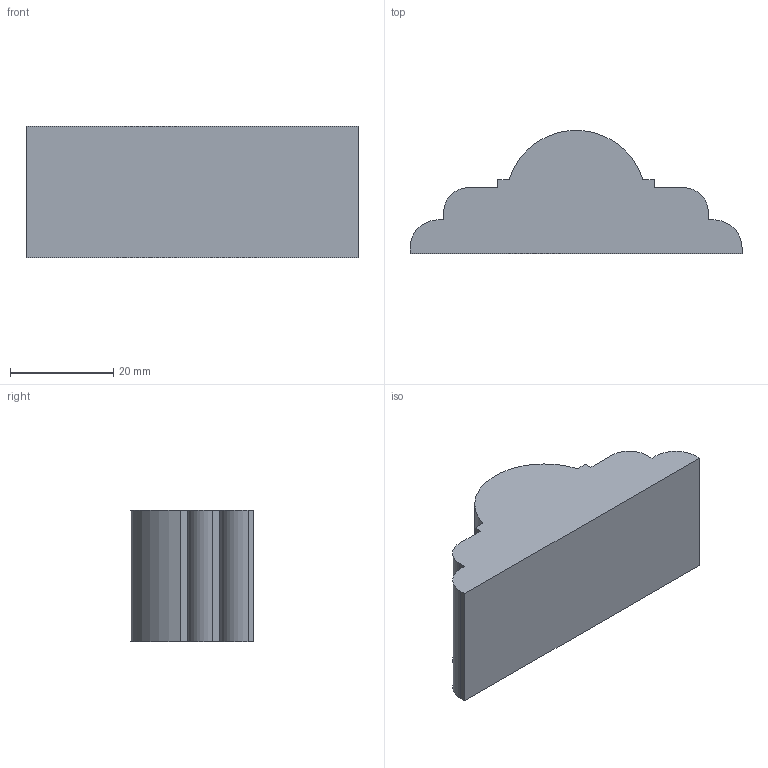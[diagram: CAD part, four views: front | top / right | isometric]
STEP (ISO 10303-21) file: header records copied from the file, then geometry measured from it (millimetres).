
FILE_DESCRIPTION (( 'STEP AP203' ), '1' );
FILE_NAME ('AB303FJ.STEP', '2023-08-25T14:17:25', ( '' ), ( '' ), 'SwSTEP 2.0', 'SolidWorks 2020', '' );
FILE_SCHEMA (( 'CONFIG_CONTROL_DESIGN' ));
Length unit declared in the file: inch
Products named in the file (1): AB303FJ
Bounding box: 64.29 x 23.78 x 25.4 mm (x, y, z)
Volume: 23910.5 mm3; surface area: 5866.7 mm2
Topology: 1 solids, 1 shells, 20 faces, 54 edges, 36 vertices
Faces by surface type: plane 15, cylinder 5
Entity records: 707 total; most frequent: CARTESIAN_POINT 111, ORIENTED_EDGE 108, DIRECTION 106, EDGE_CURVE 54, LINE 44, VECTOR 44, VERTEX_POINT 36, AXIS2_PLACEMENT_3D 31
